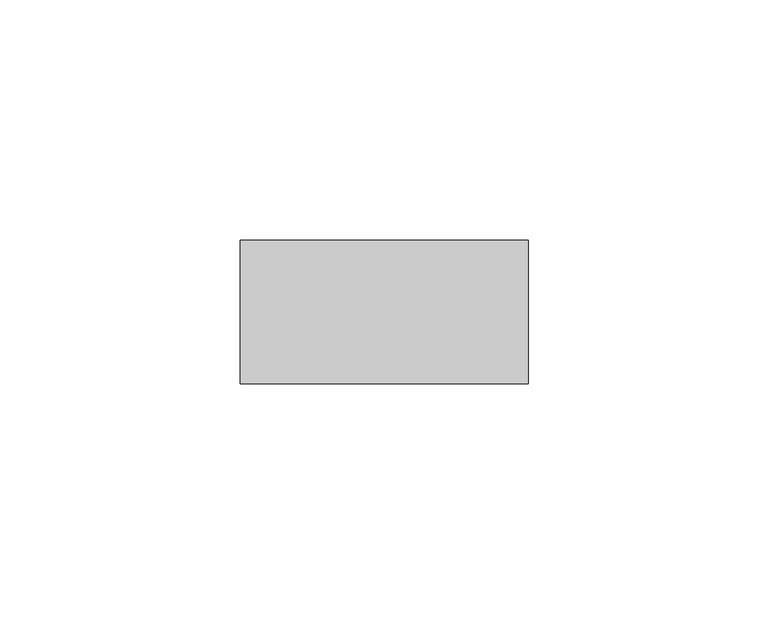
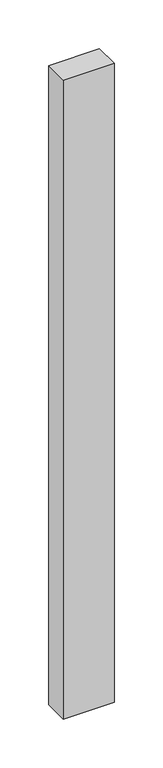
"""IFC4 building model written with IfcOpenShell, lengths in millimetres: member geometry, Прямоугольный импост : Квадрат 30 мм."""

from ifc_helpers import new_model, si_unit, frame, origin, place, context, project, spatial, polyline, outline, extrude, source, transform, mapped, element, save


def member_bac7df87(model_context):
    return source(origin(), model_context, "Body", "SweptSolid", [
        extrude(outline(polyline([(30.0, 15.0), (30.0, -15.0), (-30.0, -15.0), (-30.0, 15.0), (30.0, 15.0)])), frame((0.0, 0.0, -800.0), z_axis=(0.0, 0.0, 1.0), x_axis=(1.0, 0.0, 0.0)), (0.0, 0.0, 1.0), 800.0),
    ])


if __name__ == "__main__":
    model = new_model("IFC4")
    model_context = context("Model", 3, world=origin())
    ifc_project = project(units=[si_unit("LENGTHUNIT", "METRE", prefix="MILLI")], contexts=[model_context])
    site = spatial("IfcSite", under=ifc_project)
    building = spatial("IfcBuilding", under=site)
    placement = place(None, origin())
    member_shape = member_bac7df87(model_context)
    element("IfcMember", 1, ObjectType="Прямоугольный импост : Квадрат 30 мм", at=placement, inside=building, context=model_context, shape_type="MappedRepresentation", body=[
        mapped(member_shape, transform((0.0, 0.0, 0.0), x_axis=(1.0, 0.0, 0.0), y_axis=(0.0, 1.0, 0.0), z_axis=(0.0, 0.0, 1.0))),
    ])
    save(model, "model.ifc")
